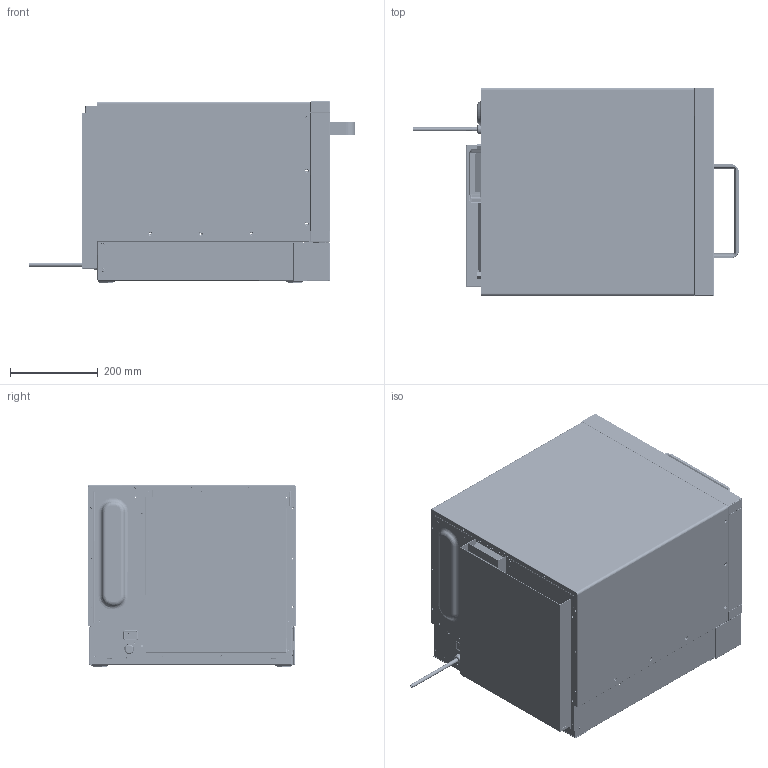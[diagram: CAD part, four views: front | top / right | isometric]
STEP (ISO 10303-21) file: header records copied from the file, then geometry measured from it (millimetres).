
FILE_DESCRIPTION(('CATIA V5 STEP Exchange'),'2;1');
FILE_NAME('V:\Trial\008_adachi\2018年度\NE-SCV2BPQ ASSY\NE-SCV2BPQ_solid1.stp','2018-07-23T01:27:14+00:00',('none'),('none'),'CATIA Version 5-6 Release 2014 SP5 HF50','CATIA V5 STEP AP203','none');
FILE_SCHEMA(('CONFIG_CONTROL_DESIGN'));
Products named in the file (1): NE-SCV2BPQ_solid1
Bounding box: 743.03 x 474.62 x 412.3 mm (x, y, z)
Volume: 1912313.2 mm3; surface area: 3830007.2 mm2
Topology: 3 solids, 14 shells, 15213 faces, 43172 edges, 27927 vertices
Faces by surface type: cylinder 7580, plane 5611, bspline 757, torus 723, cone 322, sphere 136, revolution 76, extrusion 8
Entity records: 513958 total; most frequent: CARTESIAN_POINT 144856, ORIENTED_EDGE 86078, DIRECTION 56384, EDGE_CURVE 43039, VERTEX_POINT 27926, AXIS2_PLACEMENT_3D 24755, VECTOR 21642, LINE 21634
